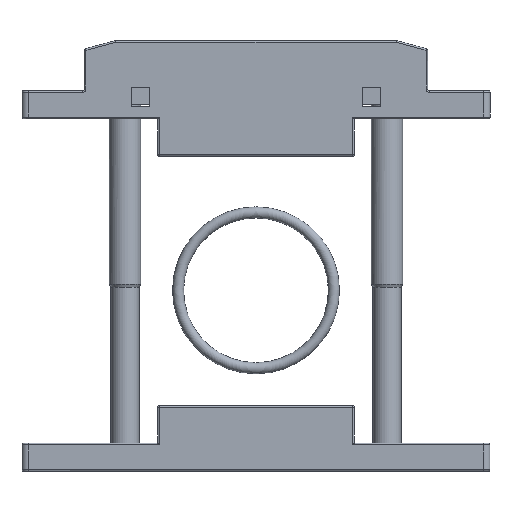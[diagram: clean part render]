
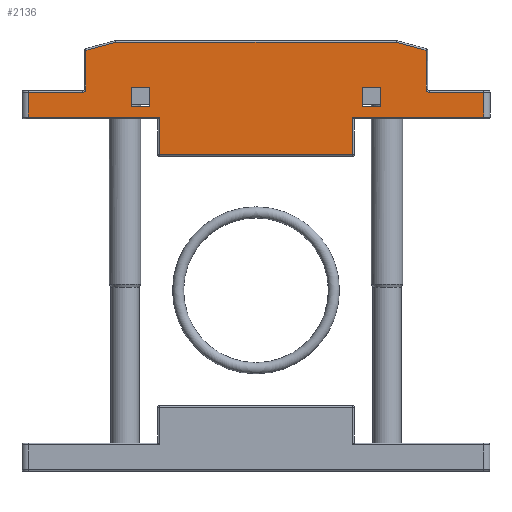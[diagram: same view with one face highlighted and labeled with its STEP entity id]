
A CAD part, front view. The second image highlights one B-rep face of the part: STEP entity #2136.
In plain terms, the highlighted planar face has unit normal (0, -1, 0).
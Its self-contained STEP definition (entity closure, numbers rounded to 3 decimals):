
#399=CARTESIAN_POINT('',(-17.,-5.15,-7.5));
#400=VERTEX_POINT('',#399);
#407=CARTESIAN_POINT('',(-20.,-5.15,-7.5));
#408=VERTEX_POINT('',#407);
#409=CARTESIAN_POINT('',(-20.,-5.15,-7.5));
#410=DIRECTION('',(1.0,0.0,0.0));
#411=VECTOR('',#410,3.0);
#412=LINE('',#409,#411);
#413=EDGE_CURVE('',#408,#400,#412,.T.);
#470=CARTESIAN_POINT('',(-17.,-5.15,-10.5));
#471=VERTEX_POINT('',#470);
#478=CARTESIAN_POINT('',(-17.,-5.15,-7.5));
#479=DIRECTION('',(0.0,0.0,-1.0));
#480=VECTOR('',#479,3.);
#481=LINE('',#478,#480);
#482=EDGE_CURVE('',#400,#471,#481,.T.);
#780=CARTESIAN_POINT('',(20.0,-5.15,-7.5));
#781=VERTEX_POINT('',#780);
#788=CARTESIAN_POINT('',(17.0,-5.15,-7.5));
#789=VERTEX_POINT('',#788);
#790=CARTESIAN_POINT('',(17.,-5.15,-7.5));
#791=DIRECTION('',(1.0,0.0,0.0));
#792=VECTOR('',#791,3.);
#793=LINE('',#790,#792);
#794=EDGE_CURVE('',#789,#781,#793,.T.);
#1314=CARTESIAN_POINT('',(36.5,-5.15,-12.25));
#1315=VERTEX_POINT('',#1314);
#1323=CARTESIAN_POINT('',(15.5,-5.15,-12.25));
#1324=VERTEX_POINT('',#1323);
#1325=CARTESIAN_POINT('',(36.5,-5.15,-12.25));
#1326=DIRECTION('',(-1.0,0.0,0.0));
#1327=VECTOR('',#1326,21.);
#1328=LINE('',#1325,#1327);
#1329=EDGE_CURVE('',#1315,#1324,#1328,.T.);
#1380=CARTESIAN_POINT('',(15.5,-5.15,-18.25));
#1381=VERTEX_POINT('',#1380);
#1415=CARTESIAN_POINT('',(-15.5,-5.15,-18.25));
#1416=VERTEX_POINT('',#1415);
#1646=CARTESIAN_POINT('',(15.5,-5.15,-18.25));
#1647=DIRECTION('',(-1.0,0.0,0.0));
#1648=VECTOR('',#1647,31.);
#1649=LINE('',#1646,#1648);
#1650=EDGE_CURVE('',#1381,#1416,#1649,.T.);
#1667=CARTESIAN_POINT('',(-15.5,-5.15,-12.25));
#1668=VERTEX_POINT('',#1667);
#1669=CARTESIAN_POINT('',(-15.5,-5.15,-18.25));
#1670=DIRECTION('',(0.0,0.0,1.0));
#1671=VECTOR('',#1670,6.);
#1672=LINE('',#1669,#1671);
#1673=EDGE_CURVE('',#1416,#1668,#1672,.T.);
#1690=CARTESIAN_POINT('',(15.5,-5.15,-12.25));
#1691=DIRECTION('',(0.0,0.0,-1.0));
#1692=VECTOR('',#1691,6.);
#1693=LINE('',#1690,#1692);
#1694=EDGE_CURVE('',#1324,#1381,#1693,.T.);
#1737=CARTESIAN_POINT('',(-36.5,-5.15,-12.25));
#1738=VERTEX_POINT('',#1737);
#1748=CARTESIAN_POINT('',(-15.5,-5.15,-12.25));
#1749=DIRECTION('',(-1.0,0.0,0.0));
#1750=VECTOR('',#1749,21.);
#1751=LINE('',#1748,#1750);
#1752=EDGE_CURVE('',#1668,#1738,#1751,.T.);
#1981=CARTESIAN_POINT('',(-36.5,-5.15,-8.25));
#1982=VERTEX_POINT('',#1981);
#1983=CARTESIAN_POINT('',(-36.5,-5.15,-12.25));
#1984=DIRECTION('',(0.0,0.0,1.0));
#1985=VECTOR('',#1984,4.);
#1986=LINE('',#1983,#1985);
#1987=EDGE_CURVE('',#1738,#1982,#1986,.T.);
#2000=CARTESIAN_POINT('',(0.,-5.15,-8.847));
#2001=DIRECTION('',(0.0,1.0,0.0));
#2002=DIRECTION('',(0.0,0.0,-1.0));
#2003=AXIS2_PLACEMENT_3D('',#2000,#2001,#2002);
#2004=PLANE('',#2003);
#2005=ORIENTED_EDGE('',*,*,#1752,.F.);
#2006=ORIENTED_EDGE('',*,*,#1673,.F.);
#2007=ORIENTED_EDGE('',*,*,#1650,.F.);
#2008=ORIENTED_EDGE('',*,*,#1694,.F.);
#2009=ORIENTED_EDGE('',*,*,#1329,.F.);
#2010=CARTESIAN_POINT('',(36.5,-5.15,-8.25));
#2011=VERTEX_POINT('',#2010);
#2012=CARTESIAN_POINT('',(36.5,-5.15,-8.25));
#2013=DIRECTION('',(0.0,0.0,-1.0));
#2014=VECTOR('',#2013,4.);
#2015=LINE('',#2012,#2014);
#2016=EDGE_CURVE('',#2011,#1315,#2015,.T.);
#2017=ORIENTED_EDGE('',*,*,#2016,.F.);
#2018=CARTESIAN_POINT('',(27.75,-5.15,-8.25));
#2019=VERTEX_POINT('',#2018);
#2020=CARTESIAN_POINT('',(27.75,-5.15,-8.25));
#2021=DIRECTION('',(1.0,0.0,0.0));
#2022=VECTOR('',#2021,8.75);
#2023=LINE('',#2020,#2022);
#2024=EDGE_CURVE('',#2019,#2011,#2023,.T.);
#2025=ORIENTED_EDGE('',*,*,#2024,.F.);
#2026=CARTESIAN_POINT('',(27.25,-5.15,-7.75));
#2027=VERTEX_POINT('',#2026);
#2028=CARTESIAN_POINT('',(27.75,-5.15,-7.75));
#2029=DIRECTION('',(0.0,-1.0,0.0));
#2030=DIRECTION('',(-0.707,0.0,-0.707));
#2031=AXIS2_PLACEMENT_3D('',#2028,#2029,#2030);
#2032=CIRCLE('',#2031,0.5);
#2033=EDGE_CURVE('',#2027,#2019,#2032,.T.);
#2034=ORIENTED_EDGE('',*,*,#2033,.F.);
#2035=CARTESIAN_POINT('',(27.25,-5.15,-1.532));
#2036=VERTEX_POINT('',#2035);
#2037=CARTESIAN_POINT('',(27.25,-5.15,-1.532));
#2038=DIRECTION('',(0.0,0.0,-1.0));
#2039=VECTOR('',#2038,6.218);
#2040=LINE('',#2037,#2039);
#2041=EDGE_CURVE('',#2036,#2027,#2040,.T.);
#2042=ORIENTED_EDGE('',*,*,#2041,.F.);
#2043=CARTESIAN_POINT('',(22.467,-5.15,-0.25));
#2044=VERTEX_POINT('',#2043);
#2045=CARTESIAN_POINT('',(22.467,-5.15,-0.25));
#2046=DIRECTION('',(0.966,0.0,-0.259));
#2047=VECTOR('',#2046,4.952);
#2048=LINE('',#2045,#2047);
#2049=EDGE_CURVE('',#2044,#2036,#2048,.T.);
#2050=ORIENTED_EDGE('',*,*,#2049,.F.);
#2051=CARTESIAN_POINT('',(-22.467,-5.15,-0.25));
#2052=VERTEX_POINT('',#2051);
#2053=CARTESIAN_POINT('',(-22.467,-5.15,-0.25));
#2054=DIRECTION('',(1.0,0.0,0.0));
#2055=VECTOR('',#2054,44.934);
#2056=LINE('',#2053,#2055);
#2057=EDGE_CURVE('',#2052,#2044,#2056,.T.);
#2058=ORIENTED_EDGE('',*,*,#2057,.F.);
#2059=CARTESIAN_POINT('',(-27.25,-5.15,-1.532));
#2060=VERTEX_POINT('',#2059);
#2061=CARTESIAN_POINT('',(-27.25,-5.15,-1.532));
#2062=DIRECTION('',(0.966,0.0,0.259));
#2063=VECTOR('',#2062,4.952);
#2064=LINE('',#2061,#2063);
#2065=EDGE_CURVE('',#2060,#2052,#2064,.T.);
#2066=ORIENTED_EDGE('',*,*,#2065,.F.);
#2067=CARTESIAN_POINT('',(-27.25,-5.15,-7.75));
#2068=VERTEX_POINT('',#2067);
#2069=CARTESIAN_POINT('',(-27.25,-5.15,-7.75));
#2070=DIRECTION('',(0.0,0.0,1.0));
#2071=VECTOR('',#2070,6.218);
#2072=LINE('',#2069,#2071);
#2073=EDGE_CURVE('',#2068,#2060,#2072,.T.);
#2074=ORIENTED_EDGE('',*,*,#2073,.F.);
#2075=CARTESIAN_POINT('',(-27.75,-5.15,-8.25));
#2076=VERTEX_POINT('',#2075);
#2077=CARTESIAN_POINT('',(-27.75,-5.15,-7.75));
#2078=DIRECTION('',(0.0,-1.0,0.0));
#2079=DIRECTION('',(0.707,0.0,-0.707));
#2080=AXIS2_PLACEMENT_3D('',#2077,#2078,#2079);
#2081=CIRCLE('',#2080,0.5);
#2082=EDGE_CURVE('',#2076,#2068,#2081,.T.);
#2083=ORIENTED_EDGE('',*,*,#2082,.F.);
#2084=CARTESIAN_POINT('',(-36.5,-5.15,-8.25));
#2085=DIRECTION('',(1.0,0.0,0.0));
#2086=VECTOR('',#2085,8.75);
#2087=LINE('',#2084,#2086);
#2088=EDGE_CURVE('',#1982,#2076,#2087,.T.);
#2089=ORIENTED_EDGE('',*,*,#2088,.F.);
#2090=ORIENTED_EDGE('',*,*,#1987,.F.);
#2091=EDGE_LOOP('',(#2005,#2006,#2007,#2008,#2009,#2017,#2025,#2034,#2042,#2050,#2058,#2066,#2074,#2083,#2089,#2090));
#2092=FACE_OUTER_BOUND('',#2091,.T.);
#2093=ORIENTED_EDGE('',*,*,#413,.T.);
#2094=ORIENTED_EDGE('',*,*,#482,.T.);
#2095=CARTESIAN_POINT('',(-20.,-5.15,-10.5));
#2096=VERTEX_POINT('',#2095);
#2097=CARTESIAN_POINT('',(-17.,-5.15,-10.5));
#2098=DIRECTION('',(-1.0,0.0,0.0));
#2099=VECTOR('',#2098,3.0);
#2100=LINE('',#2097,#2099);
#2101=EDGE_CURVE('',#471,#2096,#2100,.T.);
#2102=ORIENTED_EDGE('',*,*,#2101,.T.);
#2103=CARTESIAN_POINT('',(-20.,-5.15,-10.5));
#2104=DIRECTION('',(0.0,0.0,1.0));
#2105=VECTOR('',#2104,3.);
#2106=LINE('',#2103,#2105);
#2107=EDGE_CURVE('',#2096,#408,#2106,.T.);
#2108=ORIENTED_EDGE('',*,*,#2107,.T.);
#2109=EDGE_LOOP('',(#2093,#2094,#2102,#2108));
#2110=FACE_BOUND('',#2109,.T.);
#2111=CARTESIAN_POINT('',(20.0,-5.15,-10.5));
#2112=VERTEX_POINT('',#2111);
#2113=CARTESIAN_POINT('',(17.0,-5.15,-10.5));
#2114=VERTEX_POINT('',#2113);
#2115=CARTESIAN_POINT('',(20.0,-5.15,-10.5));
#2116=DIRECTION('',(-1.0,0.0,0.0));
#2117=VECTOR('',#2116,3.0);
#2118=LINE('',#2115,#2117);
#2119=EDGE_CURVE('',#2112,#2114,#2118,.T.);
#2120=ORIENTED_EDGE('',*,*,#2119,.T.);
#2121=CARTESIAN_POINT('',(17.0,-5.15,-10.5));
#2122=DIRECTION('',(0.0,0.0,1.0));
#2123=VECTOR('',#2122,3.);
#2124=LINE('',#2121,#2123);
#2125=EDGE_CURVE('',#2114,#789,#2124,.T.);
#2126=ORIENTED_EDGE('',*,*,#2125,.T.);
#2127=ORIENTED_EDGE('',*,*,#794,.T.);
#2128=CARTESIAN_POINT('',(20.0,-5.15,-7.5));
#2129=DIRECTION('',(0.0,0.0,-1.0));
#2130=VECTOR('',#2129,3.);
#2131=LINE('',#2128,#2130);
#2132=EDGE_CURVE('',#781,#2112,#2131,.T.);
#2133=ORIENTED_EDGE('',*,*,#2132,.T.);
#2134=EDGE_LOOP('',(#2120,#2126,#2127,#2133));
#2135=FACE_BOUND('',#2134,.T.);
#2136=ADVANCED_FACE('',(#2092,#2110,#2135),#2004,.F.);
